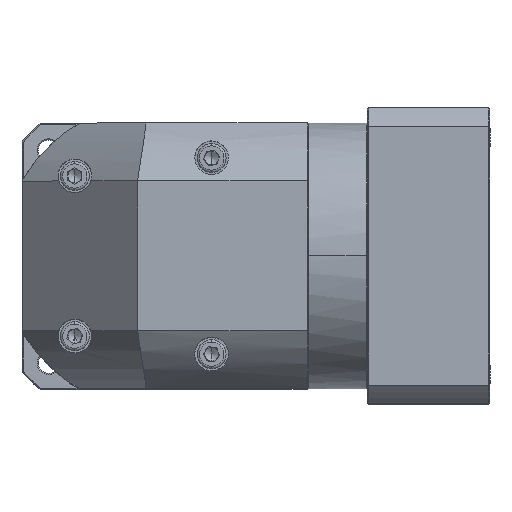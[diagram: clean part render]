
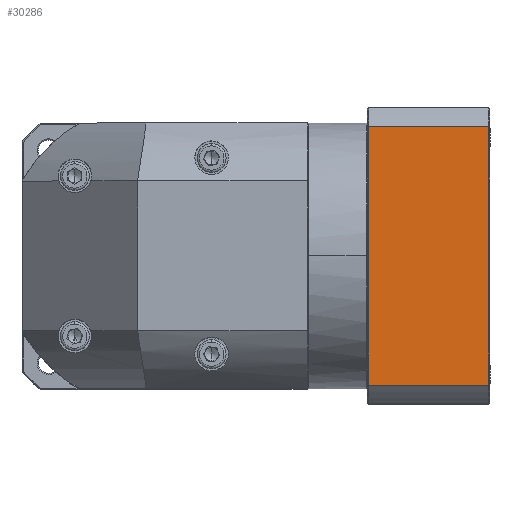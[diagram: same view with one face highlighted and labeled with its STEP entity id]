
A CAD part, top view. The second image highlights one B-rep face of the part: STEP entity #30286.
In plain terms, the highlighted planar face has unit normal (0, 0, 1).
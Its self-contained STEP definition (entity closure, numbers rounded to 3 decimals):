
#4154 = FACE_OUTER_BOUND ( 'NONE', #41942, .T. ) ;
#4976 = CARTESIAN_POINT ( 'NONE',  ( 128.718, 19.599, 77.821 ) ) ;
#6235 = DIRECTION ( 'NONE',  ( 0., -1., 0. ) ) ;
#9416 = ORIENTED_EDGE ( 'NONE', *, *, #76596, .F. ) ;
#17126 = CARTESIAN_POINT ( 'NONE',  ( -114.602, 19.599, 77.821 ) ) ;
#20483 = DIRECTION ( 'NONE',  ( 0., 1., 0. ) ) ;
#25847 = ORIENTED_EDGE ( 'NONE', *, *, #96756, .F. ) ;
#25943 = LINE ( 'NONE', #17126, #35493 ) ;
#26878 = VECTOR ( 'NONE', #126094, 1000. ) ;
#27329 = DIRECTION ( 'NONE',  ( -1., 0., 0. ) ) ;
#29401 = ORIENTED_EDGE ( 'NONE', *, *, #97373, .F. ) ;
#30286 = ADVANCED_FACE ( 'NONE', ( #4154 ), #126499, .F. ) ;
#35347 = VERTEX_POINT ( 'NONE', #4976 ) ;
#35493 = VECTOR ( 'NONE', #27329, 1000. ) ;
#41942 = EDGE_LOOP ( 'NONE', ( #29401, #9416, #25847, #53609 ) ) ;
#44004 = VERTEX_POINT ( 'NONE', #70255 ) ;
#53609 = ORIENTED_EDGE ( 'NONE', *, *, #115803, .F. ) ;
#58805 = VERTEX_POINT ( 'NONE', #108289 ) ;
#62817 = CARTESIAN_POINT ( 'NONE',  ( -114.602, 131.474, 77.821 ) ) ;
#66782 = CARTESIAN_POINT ( 'NONE',  ( 181.218, 139.537, 77.821 ) ) ;
#68748 = AXIS2_PLACEMENT_3D ( 'NONE', #66782, #97994, #6235 ) ;
#70255 = CARTESIAN_POINT ( 'NONE',  ( 128.718, 131.474, 77.821 ) ) ;
#73868 = DIRECTION ( 'NONE',  ( 1., 0., 0. ) ) ;
#76596 = EDGE_CURVE ( 'NONE', #35347, #44004, #128628, .T. ) ;
#79548 = LINE ( 'NONE', #97121, #26878 ) ;
#81462 = CARTESIAN_POINT ( 'NONE',  ( 128.718, 139.537, 77.821 ) ) ;
#86323 = LINE ( 'NONE', #62817, #88017 ) ;
#88017 = VECTOR ( 'NONE', #73868, 1000. ) ;
#96135 = CARTESIAN_POINT ( 'NONE',  ( 180.718, 19.599, 77.821 ) ) ;
#96756 = EDGE_CURVE ( 'NONE', #130214, #35347, #25943, .T. ) ;
#97121 = CARTESIAN_POINT ( 'NONE',  ( 180.718, 139.537, 77.821 ) ) ;
#97373 = EDGE_CURVE ( 'NONE', #44004, #58805, #86323, .T. ) ;
#97994 = DIRECTION ( 'NONE',  ( 0., 0., -1. ) ) ;
#108289 = CARTESIAN_POINT ( 'NONE',  ( 180.718, 131.474, 77.821 ) ) ;
#115803 = EDGE_CURVE ( 'NONE', #58805, #130214, #79548, .T. ) ;
#126094 = DIRECTION ( 'NONE',  ( 0., -1., 0. ) ) ;
#126499 = PLANE ( 'NONE',  #68748 ) ;
#128628 = LINE ( 'NONE', #81462, #130313 ) ;
#130214 = VERTEX_POINT ( 'NONE', #96135 ) ;
#130313 = VECTOR ( 'NONE', #20483, 1000. ) ;
